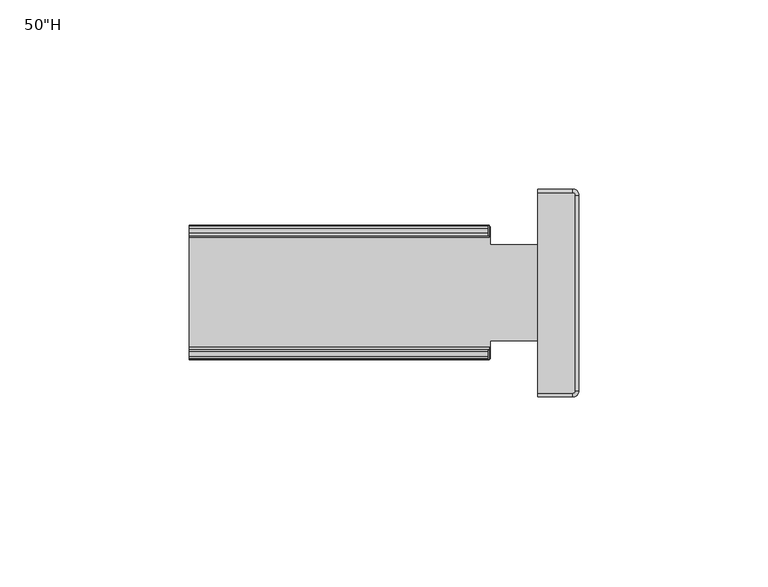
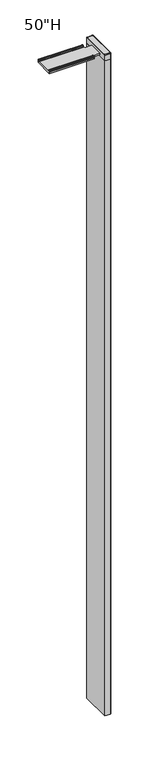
"""IFC4 building model written with IfcOpenShell, lengths in millimetres: furniture geometry."""

import ifcopenshell
import ifcopenshell.guid

model = None  # the IFC model being written
_history = None  # IfcOwnerHistory: only IFC2X3 demands one
_inside = {}  # id of a spatial element -> (the spatial element, [elements in it])
_under = {}  # id of a project, library or spatial element -> (it, [spatial elements below it])
_declared = {}  # id of a project -> (the project, [libraries it declares])
_typed = {}  # id of a type object -> (the type object, [elements of that type])
_made_of = {}  # id of a material, layer set ... -> (it, [elements and type objects made of it])


def new_model(schema):
    """Start an empty IFC model of exactly this schema.

    Asked for "IFC4X3", IfcOpenShell would pick the latest addendum, in which some entities
    have other attributes; the version numbers below select the first issue.
    IFC2X3 requires an IfcOwnerHistory on every rooted entity: one is made here for all.
    """
    global model, _history
    if schema == "IFC4X3":
        model = ifcopenshell.file(schema_version=(4, 3, 0, 0))
    else:
        model = ifcopenshell.file(schema=schema)
    _inside.clear()
    _under.clear()
    _declared.clear()
    _typed.clear()
    _made_of.clear()
    _history = None
    if model.schema == "IFC2X3":
        org = make("IfcOrganization", Name="unknown")
        user = make(
            "IfcPersonAndOrganization",
            ThePerson=make("IfcPerson", FamilyName="unknown"),
            TheOrganization=org,
        )
        app = make(
            "IfcApplication",
            ApplicationDeveloper=org,
            Version="unknown",
            ApplicationFullName="unknown",
            ApplicationIdentifier="unknown",
        )
        _history = make(
            "IfcOwnerHistory",
            OwningUser=user,
            OwningApplication=app,
            ChangeAction="ADDED",
            CreationDate=0,
        )
    return model


def make(cls, **values):
    """One entity of the class cls with the attributes given. An attribute that is None is left unset."""
    return model.create_entity(
        cls, **{name: value for name, value in values.items() if value is not None}
    )


def rooted(cls, **values):
    """An entity with a GlobalId (a new one), such as an element, a storey or a relation."""
    return make(cls, GlobalId=ifcopenshell.guid.new(), OwnerHistory=_history, **values)


def si_unit(unit_type, name, prefix=None):
    """IfcSIUnit, for example si_unit("LENGTHUNIT", "METRE", prefix="MILLI")."""
    return make("IfcSIUnit", UnitType=unit_type, Prefix=prefix, Name=name)


def assignment(units):
    """IfcUnitAssignment: the units of a project."""
    return None if units is None else make("IfcUnitAssignment", Units=units)


def point(xyz):
    """IfcCartesianPoint."""
    return None if xyz is None else make("IfcCartesianPoint", Coordinates=xyz)


def direction(xyz):
    """IfcDirection."""
    return None if xyz is None else make("IfcDirection", DirectionRatios=xyz)


def frame(location, z_axis=None, x_axis=None):
    """IfcAxis2Placement3D, a coordinate frame: its origin and axes. An axis left out is left unset."""
    return make(
        "IfcAxis2Placement3D",
        Location=point(location),
        Axis=direction(z_axis),
        RefDirection=direction(x_axis),
    )


def frame_2d(location, x_axis=None):
    """IfcAxis2Placement2D, a coordinate frame in the plane: its origin and x axis."""
    return make(
        "IfcAxis2Placement2D", Location=point(location), RefDirection=direction(x_axis)
    )


def origin():
    """The frame at (0, 0, 0) with its axes left unset."""
    return frame((0.0, 0.0, 0.0))


def place(relative_to, where):
    """IfcLocalPlacement: puts the frame where relative to a parent placement (None: the world)."""
    return make(
        "IfcLocalPlacement", PlacementRelTo=relative_to, RelativePlacement=where
    )


def context(
    kind, dimensions, precision=None, world=None, true_north=None, identifier=None
):
    """IfcGeometricRepresentationContext, for example the 3D "Model" context."""
    return make(
        "IfcGeometricRepresentationContext",
        ContextIdentifier=identifier,
        ContextType=kind,
        CoordinateSpaceDimension=dimensions,
        Precision=precision,
        WorldCoordinateSystem=world,
        TrueNorth=true_north,
    )


def project(units=None, contexts=None):
    """IfcProject with its units and contexts."""
    return rooted(
        "IfcProject",
        Name="project",
        RepresentationContexts=contexts,
        UnitsInContext=assignment(units),
    )


def spatial(cls, under=None, at=None, **own):
    """A site, building, storey or space (cls), placed at a placement, below another one or the project."""
    s = rooted(cls, ObjectPlacement=at, **own)
    if under is not None:
        _under.setdefault(under.id(), (under, []))[1].append(s)
    return s


def polyline(points):
    """IfcPolyline through the points."""
    return make("IfcPolyline", Points=[point(p) for p in points])


def circle_curve(where, radius):
    """IfcCircle in the frame where."""
    return make("IfcCircle", Position=where, Radius=radius)


def ellipse_curve(where, semi_axis1, semi_axis2):
    """IfcEllipse in the frame where."""
    return make(
        "IfcEllipse", Position=where, SemiAxis1=semi_axis1, SemiAxis2=semi_axis2
    )


def trimmed(basis, trim1, trim2, sense, master):
    """IfcTrimmedCurve: the piece of a basis curve between two trims."""
    return make(
        "IfcTrimmedCurve",
        BasisCurve=basis,
        Trim1=trim1,
        Trim2=trim2,
        SenseAgreement=sense,
        MasterRepresentation=master,
    )


def segment(curve, same_sense, transition):
    """IfcCompositeCurveSegment."""
    return make(
        "IfcCompositeCurveSegment",
        Transition=transition,
        SameSense=same_sense,
        ParentCurve=curve,
    )


def composite_curve(segments, self_intersect=None):
    """IfcCompositeCurve: segments joined end to end."""
    return make("IfcCompositeCurve", Segments=segments, SelfIntersect=self_intersect)


def outline(outer, holes=None, kind="AREA"):
    """IfcArbitraryClosedProfileDef: a profile drawn as a closed curve; with holes, ...WithVoids."""
    if holes is None:
        return make("IfcArbitraryClosedProfileDef", ProfileType=kind, OuterCurve=outer)
    return make(
        "IfcArbitraryProfileDefWithVoids",
        ProfileType=kind,
        OuterCurve=outer,
        InnerCurves=holes,
    )


def extrude(swept, where, along, depth):
    """IfcExtrudedAreaSolid: the profile swept, set in the frame where, extruded along a direction by depth."""
    return make(
        "IfcExtrudedAreaSolid",
        SweptArea=swept,
        Position=where,
        ExtrudedDirection=direction(along),
        Depth=depth,
    )


def shape(context_of_items, identifier, shape_type, items):
    """IfcShapeRepresentation: the items that make up one representation, for example the "Body"."""
    return make(
        "IfcShapeRepresentation",
        ContextOfItems=context_of_items,
        RepresentationIdentifier=identifier,
        RepresentationType=shape_type,
        Items=items,
    )


def source(mapping_origin, context_of_items, identifier, shape_type, items):
    """IfcRepresentationMap: a shape defined once, which mapped items show again and again."""
    return make(
        "IfcRepresentationMap",
        MappingOrigin=mapping_origin,
        MappedRepresentation=shape(context_of_items, identifier, shape_type, items),
    )


def transform(
    local_origin,
    x_axis=None,
    y_axis=None,
    z_axis=None,
    scale=None,
    scale2=None,
    scale3=None,
    uniform=True,
):
    """IfcCartesianTransformationOperator3D, or its non-uniform kind. x_axis, y_axis, z_axis: its Axis1, 2, 3."""
    if uniform:
        return make(
            "IfcCartesianTransformationOperator3D",
            Axis1=direction(x_axis),
            Axis2=direction(y_axis),
            LocalOrigin=point(local_origin),
            Scale=scale,
            Axis3=direction(z_axis),
        )
    return make(
        "IfcCartesianTransformationOperator3DnonUniform",
        Axis1=direction(x_axis),
        Axis2=direction(y_axis),
        LocalOrigin=point(local_origin),
        Scale=scale,
        Axis3=direction(z_axis),
        Scale2=scale2,
        Scale3=scale3,
    )


def mapped(mapping_source, mapping_target):
    """IfcMappedItem: shows the shape of a source again, moved by a transform."""
    return make(
        "IfcMappedItem", MappingSource=mapping_source, MappingTarget=mapping_target
    )


def made_of(thing, what):
    """Note that an element or type object is made of a material, layer set ...; save() writes the relation."""
    if what is not None:
        _made_of.setdefault(what.id(), (what, []))[1].append(thing)
    return thing


def element(
    cls,
    number,
    at=None,
    inside=None,
    cuts=None,
    type_object=None,
    material=None,
    context=None,
    identifier="Body",
    shape_type=None,
    held_by="IfcProductDefinitionShape",
    body=None,
    shapes=None,
    **own,
):
    """One element of the class cls, such as IfcWall. Its Tag is "e" and its number.

    at: its placement. inside: the storey or other place that contains it. cuts: it is an
    opening in that element (IfcRelVoidsElement). A single representation is given by context,
    identifier, shape_type and body (its items); several are given by shapes. held_by: the class
    of the entity that holds the representations. save() writes the other relations.
    """
    e = rooted(cls, Tag="e%d" % number, ObjectPlacement=at, **own)
    if body is not None:
        shapes = [shape(context, identifier, shape_type, body)]
    if shapes is not None:
        e.Representation = make(held_by, Representations=shapes)
    if inside is not None:
        _inside.setdefault(inside.id(), (inside, []))[1].append(e)
    if cuts is not None:
        rooted(
            "IfcRelVoidsElement", RelatingBuildingElement=cuts, RelatedOpeningElement=e
        )
    if type_object is not None:
        _typed.setdefault(type_object.id(), (type_object, []))[1].append(e)
    return made_of(e, material)


def aggregate(whole, parts):
    """IfcRelAggregates: a whole, such as a stair, and the parts it consists of."""
    return rooted("IfcRelAggregates", RelatingObject=whole, RelatedObjects=parts)


def save(model, path):
    """Write the relations noted so far, then the file.

    IfcRelAggregates (storeys below a building ...), IfcRelContainedInSpatialStructure (elements
    in a storey), IfcRelDefinesByType, IfcRelAssociatesMaterial and IfcRelDeclares: one each for
    every whole, place, type object, material and project.
    """
    for whole, parts in _under.values():
        aggregate(whole, parts)
    for where, things in _inside.values():
        rooted(
            "IfcRelContainedInSpatialStructure",
            RelatedElements=things,
            RelatingStructure=where,
        )
    for kind, things in _typed.values():
        rooted("IfcRelDefinesByType", RelatedObjects=things, RelatingType=kind)
    for what, things in _made_of.values():
        rooted("IfcRelAssociatesMaterial", RelatedObjects=things, RelatingMaterial=what)
    for by, libraries in _declared.values():
        rooted("IfcRelDeclares", RelatingContext=by, RelatedDefinitions=libraries)
    model.write(path)


def plane_surface(at):
    """IfcPlane: the flat surface through the origin of the frame at, square to its z axis."""
    return make("IfcPlane", Position=at)


def cylinder_surface(at, radius):
    """IfcCylindricalSurface: all points at the distance radius from the z axis of the frame at."""
    return make("IfcCylindricalSurface", Position=at, Radius=radius)


def revolved_surface(curve, axis_point, axis_direction):
    """IfcSurfaceOfRevolution: the curve turned about the line through axis_point along axis_direction."""
    return make(
        "IfcSurfaceOfRevolution",
        SweptCurve=make("IfcArbitraryOpenProfileDef", ProfileType="CURVE", Curve=curve),
        AxisPosition=make("IfcAxis1Placement", Location=point(axis_point), Axis=direction(axis_direction)),
    )


def advanced_brep(points, edges, surfaces, faces):
    """IfcAdvancedBrep: a solid bounded by faces that lie on surfaces and meet in shared edges.

    An edge is (start, end): straight between two places in points (the first is 0);
    or (start, end, curve); or (start, end, curve, False) where it runs against its curve.
    A face is (place in surfaces, loops), or (place, loops, False) where it looks against
    its surface's normal. A loop lists edges by number (the first is 1), with a minus sign
    where the edge is run from its end to its start. The first loop is the outer one.
    """
    corners = [point(p) for p in points]
    vertices = [make("IfcVertexPoint", VertexGeometry=c) for c in corners]
    made = []
    for start, end, *more in edges:
        made.append(
            make(
                "IfcEdgeCurve",
                EdgeStart=vertices[start],
                EdgeEnd=vertices[end],
                EdgeGeometry=more[0] if more else make("IfcPolyline", Points=[corners[start], corners[end]]),
                SameSense=more[1] if len(more) > 1 else True,
            )
        )
    hull = []
    for where, loops, *sense in faces:
        bounds = []
        for j, loop in enumerate(loops):
            ring = [make("IfcOrientedEdge", EdgeElement=made[abs(k) - 1], Orientation=k > 0) for k in loop]
            bounds.append(
                make(
                    "IfcFaceOuterBound" if j == 0 else "IfcFaceBound",
                    Bound=make("IfcEdgeLoop", EdgeList=ring),
                    Orientation=True,
                )
            )
        hull.append(make("IfcAdvancedFace", Bounds=bounds, FaceSurface=surfaces[where], SameSense=sense[0] if sense else True))
    return make("IfcAdvancedBrep", Outer=make("IfcClosedShell", CfsFaces=hull))


def furniture_5a4e5a92(model_context):
    return source(origin(), model_context, "Body", "SolidModel", [
        advanced_brep(
        [(-0.3869079, -15.4628389, 1249.461525), (-0.3869079, -15.4628389, 1252.0015589), (-0.3869079, -40.8628386, 1252.0015589), (-0.3869079, -40.8628386, 1249.461525), (-92.4901439, -10.8019384, 1249.461525), (-92.4901439, -45.5237368, 1249.461525), (-92.4901439, -45.5237368, 1251.4030388), (-92.4901439, -45.7440304, 1252.2110117), (-92.4901439, -45.9005867, 1252.9980027), (-92.4901439, -45.6898611, 1254.4973936), (-92.4901439, -45.1356767, 1254.9791388), (-92.4901439, -43.7845193, 1254.9791388), (-92.4901439, -43.2731504, 1254.4853155), (-92.4901439, -43.2053729, 1252.5444234), (-92.4901439, -42.6432202, 1252.0015589), (-92.4901439, -13.6762936, 1252.0015589), (-92.4901439, -13.120523, 1252.5382601), (-92.4901439, -13.0541144, 1254.4399285), (-92.4901439, -12.4957455, 1254.9791388), (-92.4901439, -11.2117125, 1254.9791388), (-92.4901439, -10.6358677, 1254.4959476), (-92.4901439, -10.3840202, 1253.0676492), (-92.4901439, -10.5540846, 1252.2971692), (-92.4901439, -10.8019384, 1251.5085368), (-12.9227259, -10.8019384, 1249.461525), (-12.9227259, -15.4628389, 1249.461525), (-12.9180446, -40.8628386, 1249.461525), (-12.9180446, -45.5237368, 1249.461525), (-12.9180446, -45.5237368, 1251.4030388), (-12.9180446, -45.6405409, 1252.0015589), (-13.0869079, -45.6405409, 1252.0015589), (-13.1238401, -45.7440304, 1252.2110117), (-13.2626078, -45.9005867, 1252.9980027), (-13.5269909, -45.6898611, 1254.4973936), (-13.6119355, -45.1356767, 1254.9791388), (-13.6119355, -43.7845193, 1254.9791388), (-13.5248612, -43.2731504, 1254.4853155), (-13.1826295, -43.2053729, 1252.5444234), (-13.0869079, -42.6432202, 1252.0015589), (-12.9180446, -40.8628386, 1252.0015589), (-12.9227259, -15.4628389, 1252.0015589), (-12.9227259, -10.7107635, 1252.0015589), (-13.0869079, -10.7107635, 1252.0015589), (-13.0869079, -13.6762936, 1252.0015589), (-13.1815428, -13.120523, 1252.5382601), (-13.5168582, -13.0541144, 1254.4399285), (-13.6119355, -12.4957455, 1254.9791388), (-13.6119355, -11.2117125, 1254.9791388), (-13.5267359, -10.6358677, 1254.4959476), (-13.2748884, -10.3840202, 1253.0676492), (-13.1390319, -10.5540846, 1252.2971692), (-12.9227259, -10.8019384, 1251.5085368)],
        [
            (0, 1),
            (1, 2),
            (2, 3),
            (3, 0),
            (4, 5),
            (5, 6),
            (6, 7, circle_curve(frame((-92.4901439, -47.1155885, 1251.4030388), z_axis=(1.0, 0.0, 0.0), x_axis=(0.0, -1.0, 0.0)), 1.5918516)),
            (7, 8, circle_curve(frame((-92.4901439, -44.6955727, 1252.828649), z_axis=(-1.0, 0.0, 0.0), x_axis=(0.0, -1.0, 0.0)), 1.2168564)),
            (8, 9),
            (9, 10, circle_curve(frame((-92.4901439, -45.1356767, 1254.4195081), z_axis=(-1.0, 0.0, 0.0), x_axis=(0.0, -1.0, 0.0)), 0.5596307)),
            (10, 11),
            (11, 12, circle_curve(frame((-92.4901439, -43.7845193, 1254.4674581), z_axis=(-1.0, 0.0, 0.0), x_axis=(0.0, -1.0, 0.0)), 0.5116807)),
            (12, 13),
            (13, 14, circle_curve(frame((-92.4901439, -42.6432202, 1252.5640542), z_axis=(1.0, 0.0, 0.0), x_axis=(0.0, -1.0, 0.0)), 0.5624954)),
            (14, 15),
            (15, 16, circle_curve(frame((-92.4901439, -13.6762936, 1252.5576683), z_axis=(1.0, 0.0, 0.0), x_axis=(0.0, -1.0, 0.0)), 0.5561094)),
            (16, 17),
            (17, 18, circle_curve(frame((-92.4901439, -12.4957455, 1254.4204296), z_axis=(-1.0, 0.0, 0.0), x_axis=(0.0, -1.0, 0.0)), 0.5587092)),
            (18, 19),
            (19, 20, circle_curve(frame((-92.4901439, -11.2117125, 1254.3944106), z_axis=(-1.0, 0.0, 0.0), x_axis=(0.0, -1.0, 0.0)), 0.5847281)),
            (20, 21),
            (21, 22, circle_curve(frame((-92.4901439, -11.4015407, 1252.8882329), z_axis=(-1.0, 0.0, 0.0), x_axis=(0.0, -1.0, 0.0)), 1.0332174)),
            (22, 23, circle_curve(frame((-92.4901439, -9.4233584, 1251.5085368), z_axis=(1.0, 0.0, 0.0), x_axis=(0.0, -1.0, 0.0)), 1.37858)),
            (23, 4),
            (4, 24),
            (24, 25),
            (25, 0),
            (3, 26),
            (26, 27),
            (27, 5),
            (27, 28),
            (28, 6),
            (28, 29, circle_curve(frame((-12.9180446, -47.1155885, 1251.4030388), z_axis=(1.0, 0.0, 0.0), x_axis=(0.0, -1.0, 0.0)), 1.5918516)),
            (29, 30),
            (30, 31, ellipse_curve(frame((-12.9813726, -47.1155885, 1251.4030388), z_axis=(0.9848077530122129, 0.0, 0.17364817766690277), x_axis=(-0.1736481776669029, 0.0, 0.9848077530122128)), 1.6164085, 1.5918516)),
            (31, 7),
            (31, 32, ellipse_curve(frame((-13.2327462, -44.6955727, 1252.828649), z_axis=(-0.9848077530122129, 0.0, -0.17364817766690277), x_axis=(0.1736481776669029, 0.0, -0.9848077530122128)), 1.2356284, 1.2168564)),
            (32, 8),
            (32, 33),
            (33, 9),
            (33, 34, ellipse_curve(frame((-13.5132576, -45.1356767, 1254.4195081), z_axis=(-0.9848077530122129, 0.0, -0.17364817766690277), x_axis=(0.1736481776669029, 0.0, -0.9848077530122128)), 0.5682639, 0.5596307)),
            (34, 10),
            (34, 35),
            (35, 11),
            (35, 36, ellipse_curve(frame((-13.5217124, -43.7845193, 1254.4674581), z_axis=(-0.9848077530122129, 0.0, -0.17364817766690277), x_axis=(0.1736481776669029, 0.0, -0.9848077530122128)), 0.5195742, 0.5116807)),
            (36, 12),
            (36, 37),
            (37, 13),
            (37, 38, ellipse_curve(frame((-13.186091, -42.6432202, 1252.5640542), z_axis=(0.9848077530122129, 0.0, 0.17364817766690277), x_axis=(-0.1736481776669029, 0.0, 0.9848077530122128)), 0.5711728, 0.5624954)),
            (38, 14),
            (38, 30),
            (29, 39),
            (39, 2),
            (1, 40),
            (40, 41),
            (41, 42),
            (42, 43),
            (43, 15),
            (43, 44, ellipse_curve(frame((-13.184965, -13.6762936, 1252.5576683), z_axis=(0.9848077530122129, 0.0, 0.17364817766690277), x_axis=(-0.1736481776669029, 0.0, 0.9848077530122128)), 0.5646883, 0.5561094)),
            (44, 16),
            (44, 45),
            (45, 17),
            (45, 46, ellipse_curve(frame((-13.51342, -12.4957455, 1254.4204296), z_axis=(-0.9848077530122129, 0.0, -0.17364817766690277), x_axis=(0.1736481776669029, 0.0, -0.9848077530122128)), 0.5673282, 0.5587092)),
            (46, 18),
            (46, 47),
            (47, 19),
            (47, 48, ellipse_curve(frame((-13.5088322, -11.2117125, 1254.3944106), z_axis=(-0.9848077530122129, 0.0, -0.17364817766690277), x_axis=(0.1736481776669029, 0.0, -0.9848077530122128)), 0.5937485, 0.5847281)),
            (48, 20),
            (48, 49),
            (49, 21),
            (49, 50, ellipse_curve(frame((-13.2432524, -11.4015407, 1252.8882329), z_axis=(-0.9848077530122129, 0.0, -0.17364817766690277), x_axis=(0.1736481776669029, 0.0, -0.9848077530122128)), 1.0491564, 1.0332174)),
            (50, 22),
            (50, 42, ellipse_curve(frame((-12.9999748, -9.4233584, 1251.5085368), z_axis=(0.9848077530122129, 0.0, 0.17364817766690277), x_axis=(-0.1736481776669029, 0.0, 0.9848077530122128)), 1.3998468, 1.37858)),
            (41, 51, circle_curve(frame((-12.9227259, -9.4233584, 1251.5085368), z_axis=(1.0, 0.0, 0.0), x_axis=(0.0, -1.0, 0.0)), 1.37858)),
            (51, 23),
            (51, 24),
            (26, 39),
            (25, 40),
        ],
        [
            plane_surface(frame((-0.3869079, -45.5237368, 1249.461525), z_axis=(1.0, 0.0, 0.0), x_axis=(0.0, -1.0, 0.0))),
            plane_surface(frame((-92.4901439, -45.5237368, 1249.461525), z_axis=(-1.0, 0.0, 0.0), x_axis=(0.0, 1.0, 0.0))),
            plane_surface(frame((-0.3869079, -10.8019384, 1249.461525), z_axis=(0.0, 0.0, -1.0), x_axis=(-1.0, 0.0, 0.0))),
            plane_surface(frame((-0.3869079, -45.5237368, 1249.461525), z_axis=(0.0, -1.0, 0.0), x_axis=(-1.0, 0.0, 0.0))),
            revolved_surface(polyline([(-92.4901439, -48.7074401, 1251.4030388), (-12.700686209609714, -48.7074401, 1251.4030388)]), (-92.4901439, -47.1155885, 1251.4030388), (-1.0, 0.0, 0.0)),
            cylinder_surface(frame((-92.4901439, -44.6955727, 1252.828649), z_axis=(1.0, 0.0, 0.0), x_axis=(0.0, -1.0, 0.0)), 1.2168564),
            plane_surface(frame((-0.3869079, -45.9005867, 1252.9980027), z_axis=(0.0, -0.9902680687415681, 0.13917310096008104), x_axis=(-1.0, 0.0, 0.0))),
            cylinder_surface(frame((-92.4901439, -45.1356767, 1254.4195081), z_axis=(1.0, 0.0, 0.0), x_axis=(0.0, -1.0, 0.0)), 0.5596307),
            plane_surface(frame((-0.3869079, -45.1356767, 1254.9791388), z_axis=(0.0, 0.0, 1.0), x_axis=(-1.0, 0.0, 0.0))),
            cylinder_surface(frame((-92.4901439, -43.7845193, 1254.4674581), z_axis=(1.0, 0.0, 0.0), x_axis=(0.0, -1.0, 0.0)), 0.5116807),
            plane_surface(frame((-0.3869079, -43.2731504, 1254.4853155), z_axis=(0.0, 0.9993908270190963, 0.03489949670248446), x_axis=(-1.0, 0.0, 0.0))),
            revolved_surface(polyline([(-92.4901439, -43.205715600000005, 1252.5640542), (-13.086907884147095, -43.205715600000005, 1252.5640542)]), (-92.4901439, -42.6432202, 1252.5640542), (-1.0, 0.0, 0.0)),
            plane_surface(frame((-0.3869079, -42.6432202, 1252.0015589), z_axis=(0.0, 0.0, 1.0), x_axis=(-1.0, 0.0, 0.0))),
            revolved_surface(polyline([(-92.4901439, -14.232403, 1252.5576683), (-13.0869079, -14.232403, 1252.5576683)]), (-92.4901439, -13.6762936, 1252.5576683), (-1.0, 0.0, 0.0)),
            plane_surface(frame((-0.3869079, -13.120523, 1252.5382601), z_axis=(0.0, -0.999390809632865, 0.03489999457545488), x_axis=(-1.0, 0.0, 0.0))),
            cylinder_surface(frame((-92.4901439, -12.4957455, 1254.4204296), z_axis=(1.0, 0.0, 0.0), x_axis=(0.0, -1.0, 0.0)), 0.5587092),
            plane_surface(frame((-0.3869079, -12.4957455, 1254.9791388), z_axis=(0.0, 0.0, 1.0), x_axis=(-1.0, 0.0, 0.0))),
            cylinder_surface(frame((-92.4901439, -11.2117125, 1254.3944106), z_axis=(1.0, 0.0, 0.0), x_axis=(0.0, -1.0, 0.0)), 0.5847281),
            plane_surface(frame((-0.3869079, -10.6358677, 1254.4959476), z_axis=(0.0, 0.9848077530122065, 0.1736481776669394), x_axis=(-1.0, 0.0, 0.0))),
            cylinder_surface(frame((-92.4901439, -11.4015407, 1252.8882329), z_axis=(1.0, 0.0, 0.0), x_axis=(0.0, -1.0, 0.0)), 1.0332174),
            revolved_surface(polyline([(-92.4901439, -10.8019384, 1251.5085368), (-12.756893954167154, -10.8019384, 1251.5085368)]), (-92.4901439, -9.4233584, 1251.5085368), (-1.0, 0.0, 0.0)),
            plane_surface(frame((-0.3869079, -10.8019384, 1251.5085368), z_axis=(0.0, 1.0, 0.0), x_axis=(-1.0, 0.0, 0.0))),
            plane_surface(frame((-14.1549775, 5.0088925, 1258.058883), z_axis=(0.9848077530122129, 0.0, 0.17364817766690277), x_axis=(0.0, -1.0, 0.0))),
            plane_surface(frame((-12.9180446, -48.8007694, 1537.2597227), z_axis=(1.0, 0.0, 0.0), x_axis=(0.0, 0.0, -1.0))),
            plane_surface(frame((-12.9180446, -40.8628386, 1537.2597227), z_axis=(0.0, -1.0, 0.0), x_axis=(0.0, 0.0, -1.0))),
            plane_surface(frame((1.3881006, -15.4628389, 1537.2597227), z_axis=(0.0, 1.0, 0.0), x_axis=(0.0, 0.0, -1.0))),
            plane_surface(frame((-12.9227259, -15.4628389, 1537.2597227), z_axis=(1.0, 0.0, 0.0), x_axis=(0.0, 0.0, -1.0))),
        ],
        [
            (0, [[1, 2, 3, 4]]),
            (1, [[5, 6, 7, 8, 9, 10, 11, 12, 13, 14, 15, 16, 17, 18, 19, 20, 21, 22, 23, 24]]),
            (2, [[25, 26, 27, -4, 28, 29, 30, -5]]),
            (3, [[-30, 31, 32, -6]]),
            (4, [[-32, 33, 34, 35, 36, -7]]),
            (5, [[-36, 37, 38, -8]]),
            (6, [[-38, 39, 40, -9]]),
            (7, [[-40, 41, 42, -10]]),
            (8, [[-42, 43, 44, -11]]),
            (9, [[-44, 45, 46, -12]]),
            (10, [[-46, 47, 48, -13]]),
            (11, [[-48, 49, 50, -14]]),
            (12, [[-50, 51, -34, 52, 53, -2, 54, 55, 56, 57, 58, -15]]),
            (13, [[-58, 59, 60, -16]]),
            (14, [[-60, 61, 62, -17]]),
            (15, [[-62, 63, 64, -18]]),
            (16, [[-64, 65, 66, -19]]),
            (17, [[-66, 67, 68, -20]]),
            (18, [[-68, 69, 70, -21]]),
            (19, [[-70, 71, 72, -22]]),
            (20, [[-72, 73, -56, 74, 75, -23]]),
            (21, [[-75, 76, -25, -24]]),
            (22, [[-49, -47, -45, -43, -41, -39, -37, -35, -51]]),
            (22, [[-73, -71, -69, -67, -65, -63, -61, -59, -57]]),
            (23, [[-52, -33, -31, -29, 77]]),
            (24, [[-28, -3, -53, -77]]),
            (25, [[-54, -1, -27, 78]]),
            (26, [[-26, -76, -74, -55, -78]]),
        ],
    ),
        extrude(outline(composite_curve([segment(polyline([(8.9475923, -54.691305), (-0.3869079, -54.691305), (-0.3869079, -1.817016), (8.9475923, -1.817016)]), True, "CONTINUOUS"), segment(trimmed(circle_curve(frame_2d((8.9475923, -2.38125)), 0.564234), [point((8.9475923, -1.817016))], [point((9.5118263, -2.38125))], False, "CARTESIAN"), True, "CONTINUOUS"), segment(polyline([(9.5118263, -2.38125), (9.5118263, -54.127071)]), True, "CONTINUOUS"), segment(trimmed(circle_curve(frame_2d((8.9475923, -54.127071)), 0.564234), [point((9.5118263, -54.127071))], [point((8.9475923, -54.691305))], False, "CARTESIAN"), True, "CONTINUOUS")], self_intersect=False)), frame((0.0, 0.0, 1257.5857505), z_axis=(0.0, 0.0, 1.0), x_axis=(1.0, 0.0, 0.0)), (0.0, 0.0, 1.0), 1.023266),
        advanced_brep(
        [(9.5118263, -2.38125, 1258.6090165), (10.5350923, -2.38125, 1257.5857505), (8.9475923, -0.79375, 1257.5857505), (8.9475923, -1.817016, 1258.6090165), (9.5118263, -54.127071, 1258.6090165), (10.5350923, -54.127071, 1257.5857505), (8.9475923, -54.691305, 1258.6090165), (8.9475923, -55.714571, 1257.5857505), (-0.3869079, -54.691305, 1258.6090165), (-0.3869079, -55.714571, 1257.5857505), (-0.3869079, -54.691305, 1257.5857505), (-0.3869079, -0.79375, 1257.5857505), (8.9475923, -54.691305, 1257.5857505), (9.5118263, -54.127071, 1257.5857505), (9.5118263, -2.38125, 1257.5857505), (8.9475923, -1.817016, 1257.5857505), (-0.3869079, -1.817016, 1257.5857505), (-0.3869079, -1.817016, 1258.6090165)],
        [
            (0, 1, circle_curve(frame((9.5118263, -2.38125, 1257.5857505), z_axis=(0.0, 1.0, 0.0), x_axis=(-1.0, 0.0, 0.0)), 1.023266)),
            (1, 2, circle_curve(frame((8.9475923, -2.38125, 1257.5857505), z_axis=(0.0, 0.0, 1.0), x_axis=(0.0, 1.0, 0.0)), 1.5875)),
            (2, 3, circle_curve(frame((8.9475923, -1.817016, 1257.5857505), z_axis=(1.0, 0.0, 0.0), x_axis=(0.0, -1.0, 0.0)), 1.023266)),
            (3, 0, circle_curve(frame((8.9475923, -2.38125, 1258.6090165), z_axis=(0.0, 0.0, -1.0), x_axis=(0.0, 1.0, 0.0)), 0.564234)),
            (0, 4),
            (4, 5, circle_curve(frame((9.5118263, -54.127071, 1257.5857505), z_axis=(0.0, 1.0, 0.0), x_axis=(-1.0, 0.0, 0.0)), 1.023266)),
            (5, 1),
            (6, 7, circle_curve(frame((8.9475923, -54.691305, 1257.5857505), z_axis=(1.0, 0.0, 0.0), x_axis=(0.0, 1.0, 0.0)), 1.023266)),
            (7, 5, circle_curve(frame((8.9475923, -54.127071, 1257.5857505), z_axis=(0.0, 0.0, 1.0), x_axis=(1.0, 0.0, 0.0)), 1.5875)),
            (4, 6, circle_curve(frame((8.9475923, -54.127071, 1258.6090165), z_axis=(0.0, 0.0, -1.0), x_axis=(1.0, 0.0, 0.0)), 0.564234)),
            (6, 8),
            (8, 9, circle_curve(frame((-0.3869079, -54.691305, 1257.5857505), z_axis=(1.0, 0.0, 0.0), x_axis=(0.0, 1.0, 0.0)), 1.023266)),
            (9, 7),
            (8, 10),
            (10, 9),
            (11, 2),
            (10, 12),
            (12, 13, circle_curve(frame((8.9475923, -54.127071, 1257.5857505), z_axis=(0.0, 0.0, 1.0), x_axis=(1.0, 0.0, 0.0)), 0.564234)),
            (13, 14),
            (14, 15, circle_curve(frame((8.9475923, -2.38125, 1257.5857505), z_axis=(0.0, 0.0, 1.0), x_axis=(0.0, 1.0, 0.0)), 0.564234)),
            (15, 16),
            (16, 11),
            (17, 3),
            (11, 17, circle_curve(frame((-0.3869079, -1.817016, 1257.5857505), z_axis=(1.0, 0.0, 0.0), x_axis=(0.0, -1.0, 0.0)), 1.023266)),
            (14, 0),
            (3, 15),
            (13, 4),
            (12, 6),
            (17, 16),
        ],
        [
            revolved_surface(trimmed(ellipse_curve(frame((8.9475923, -1.817016, 1257.5857505), z_axis=(1.0, 0.0, 0.0), x_axis=(0.0, -1.0, 0.0)), 1.023266, 1.023266), [point((8.9475923, -0.79375, 1257.5857505))], [point((8.9475923, -1.817016, 1258.6090165))], True, "CARTESIAN"), (8.9475923, -2.38125, 1257.5857505), (0.0, 0.0, 1.0)),
            cylinder_surface(frame((9.5118263, -2.38125, 1257.5857505), z_axis=(0.0, 1.0, 0.0), x_axis=(-1.0, 0.0, 0.0)), 1.023266),
            revolved_surface(trimmed(ellipse_curve(frame((9.5118263, -54.127071, 1257.5857505), z_axis=(0.0, -1.0, 0.0), x_axis=(-1.0, 0.0, 0.0)), 1.023266, 1.023266), [point((10.5350923, -54.127071, 1257.5857505))], [point((9.5118263, -54.127071, 1258.6090165))], True, "CARTESIAN"), (8.9475923, -54.127071, 1257.5857505), (0.0, 0.0, 1.0)),
            cylinder_surface(frame((8.9475923, -54.691305, 1257.5857505), z_axis=(1.0, 0.0, 0.0), x_axis=(0.0, 1.0, 0.0)), 1.023266),
            plane_surface(frame((-0.3869079, -55.714571, 1257.5857505), z_axis=(-1.0, 0.0, 0.0), x_axis=(0.0, 0.0, 1.0))),
            plane_surface(frame((-0.3869079, -1.817016, 1257.5857505), z_axis=(0.0, 0.0, -1.0), x_axis=(1.0, 0.0, 0.0))),
            cylinder_surface(frame((-0.3869079, -1.817016, 1257.5857505), z_axis=(-1.0, 0.0, 0.0), x_axis=(0.0, -1.0, 0.0)), 1.023266),
            revolved_surface(polyline([(8.9475923, -1.8170160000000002, 1258.6090165), (8.9475923, -1.8170160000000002, 1257.5857505)]), (8.9475923, -2.38125, 1257.5857505), (0.0, 0.0, 1.0)),
            plane_surface(frame((9.5118263, -2.38125, 1258.6090165), z_axis=(-1.0, 0.0, 0.0), x_axis=(0.0, -1.0, 0.0))),
            revolved_surface(polyline([(9.511826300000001, -54.127071, 1258.6090165), (9.511826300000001, -54.127071, 1257.5857505)]), (8.9475923, -54.127071, 1257.5857505), (0.0, 0.0, 1.0)),
            plane_surface(frame((8.9475923, -54.691305, 1258.6090165), z_axis=(0.0, 1.0, 0.0), x_axis=(-1.0, 0.0, 0.0))),
            plane_surface(frame((-0.3869079, -1.817016, 1258.6090165), z_axis=(0.0, -1.0, 0.0), x_axis=(1.0, 0.0, 0.0))),
            plane_surface(frame((-0.3869079, -0.79375, 1257.5857505), z_axis=(-1.0, 0.0, 0.0), x_axis=(0.0, 0.0, 1.0))),
        ],
        [
            (0, [[1, 2, 3, 4]]),
            (1, [[5, 6, 7, -1]]),
            (2, [[8, 9, -6, 10]]),
            (3, [[11, 12, 13, -8]]),
            (4, [[14, 15, -12]]),
            (5, [[16, -2, -7, -9, -13, -15, 17, 18, 19, 20, 21, 22]]),
            (6, [[23, -3, -16, 24]]),
            (7, [[25, -4, 26, -20]]),
            (8, [[-19, 27, -5, -25]]),
            (9, [[28, -10, -27, -18]]),
            (10, [[-17, -14, -11, -28]]),
            (11, [[-21, -26, -23, 29]]),
            (12, [[-24, -22, -29]]),
        ],
    ),
        extrude(outline(composite_curve([segment(polyline([(8.9475923, -55.714571), (-0.3869079, -55.714571), (-0.3869079, -0.79375), (8.9475923, -0.79375)]), True, "CONTINUOUS"), segment(trimmed(circle_curve(frame_2d((8.9475923, -2.38125)), 1.5875), [point((8.9475923, -0.79375))], [point((10.5350923, -2.38125))], False, "CARTESIAN"), True, "CONTINUOUS"), segment(polyline([(10.5350923, -2.38125), (10.5350923, -54.127071)]), True, "CONTINUOUS"), segment(trimmed(circle_curve(frame_2d((8.9475923, -54.127071)), 1.5875), [point((10.5350923, -54.127071))], [point((8.9475923, -55.714571))], False, "CARTESIAN"), True, "CONTINUOUS")], self_intersect=False)), frame((0.0, 0.0, 1246.98125), z_axis=(0.0, 0.0, 1.0), x_axis=(1.0, 0.0, 0.0)), (0.0, 0.0, 1.0), 10.6045005),
        extrude(outline(composite_curve([segment(polyline([(-0.3869079, -0.79375), (8.9475923, -0.79375)]), True, "CONTINUOUS"), segment(trimmed(circle_curve(frame_2d((8.9475923, -2.38125)), 1.5875), [point((8.9475923, -0.79375))], [point((10.5350923, -2.38125))], False, "CARTESIAN"), True, "CONTINUOUS"), segment(polyline([(10.5350923, -2.38125), (10.5350923, -54.127071)]), True, "CONTINUOUS"), segment(trimmed(circle_curve(frame_2d((8.9475923, -54.127071)), 1.5875), [point((10.5350923, -54.127071))], [point((8.9475923, -55.714571))], False, "CARTESIAN"), True, "CONTINUOUS"), segment(polyline([(8.9475923, -55.714571), (-0.3869079, -55.714571), (-0.3869079, -0.79375)]), True, "CONTINUOUS")], self_intersect=False)), frame((0.0, 0.0, 19.84375), z_axis=(0.0, 0.0, 1.0), x_axis=(1.0, 0.0, 0.0)), (0.0, 0.0, 1.0), 1227.1375),
    ])


if __name__ == "__main__":
    model = new_model("IFC4")
    model_context = context("Model", 3, world=origin())
    ifc_project = project(units=[si_unit("LENGTHUNIT", "METRE", prefix="MILLI")], contexts=[model_context])
    site = spatial("IfcSite", under=ifc_project)
    building = spatial("IfcBuilding", under=site)
    placement = place(None, origin())
    furniture_shape = furniture_5a4e5a92(model_context)
    element("IfcFurniture", 1, ObjectType="HON - Accelerate - Connector - Finished End Cover : 50\"H", at=placement, inside=building, context=model_context, shape_type="MappedRepresentation", body=[
        mapped(furniture_shape, transform((0.0, 0.0, 0.0), x_axis=(1.0, 0.0, 0.0), y_axis=(0.0, 1.0, 0.0), z_axis=(0.0, 0.0, 1.0))),
    ])
    save(model, "model.ifc")
